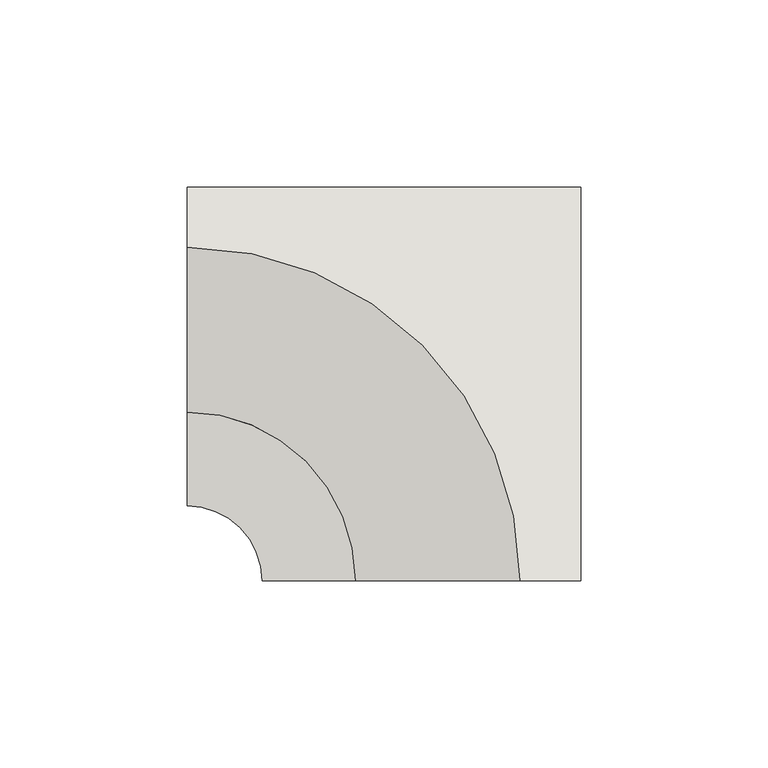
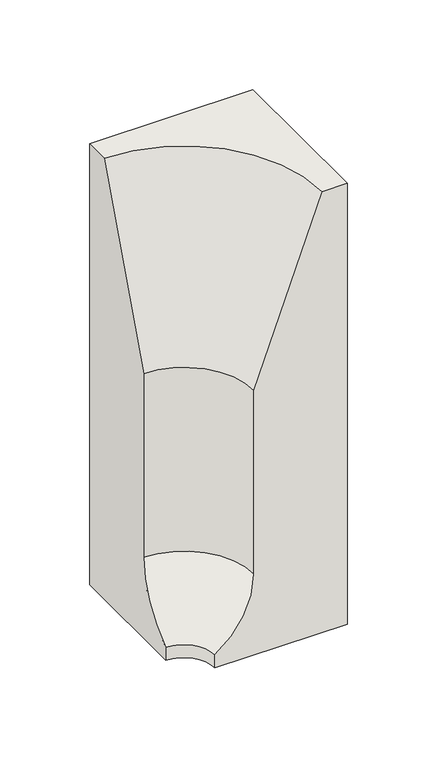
"""IFC4 building model written with IfcOpenShell, lengths in millimetres: wall geometry, GM_PC_UN_ACO kerb PB inside corner_ACO : PB H300 plain."""

from ifc_helpers import new_model, si_unit, frame, origin, place, context, project, spatial, polyline, circle_curve, source, transform, mapped, element, save
from ifc_brep_helpers import plane_surface, revolved_surface, spline_curve, advanced_brep


def wall_ba41f0f9(model_context):
    return source(origin(), model_context, "Body", "AdvancedBrep", [
        advanced_brep(
        [(-105.0, -85.0, 8.9329844), (-105.0, -60.02016, 54.9904169), (-105.0, -60.02016, 180.0038512), (-105.0, -16.0766274, 300.0008401), (-105.0, 0.0, 300.0008401), (-105.0, 0.0, 0.0), (-105.0, -85.0, -0.0124899), (-85.0, -105.0, 8.9329844), (-85.0, -105.0, -0.0124899), (0.0, -105.0, -0.0124899), (0.0, -105.0, 300.0), (-16.0766274, -105.0, 300.0008401), (-60.02016, -105.0, 180.0038512), (-60.02016, -105.0, 54.9904169), (0.0, 0.0, -0.0124899), (0.0, 0.0, 300.0008401)],
        [
            (0, 1, spline_curve(3, [(-105.0, -85.0, 8.9329844), (-105.0, -69.4194957, 19.0724445), (-105.0, -60.0210198, 36.401179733), (-105.0, -60.02016, 54.9904169)], [4, 4], [0.0, 1.0])),
            (1, 2),
            (2, 3),
            (3, 4),
            (4, 5),
            (5, 6),
            (6, 0),
            (7, 8),
            (8, 9),
            (9, 10),
            (10, 11),
            (11, 12),
            (12, 13),
            (13, 7, spline_curve(3, [(-60.02016, -105.0, 54.9904169), (-60.0210198, -105.0, 36.401179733), (-69.4194957, -105.0, 19.0724445), (-85.0, -105.0, 8.9329844)], [4, 4], [0.0, 1.0])),
            (0, 7, circle_curve(frame((-105.0, -105.0, 8.9329844), z_axis=(0.0, 0.0, -1.0), x_axis=(0.0, 1.0, 0.0)), 20.0)),
            (13, 1, circle_curve(frame((-105.0, -105.0, 54.9904169), z_axis=(0.0, 0.0, 1.0), x_axis=(0.0, 1.0, 0.0)), 44.97984)),
            (6, 8, circle_curve(frame((-105.0, -105.0, -0.0124899), z_axis=(0.0, 0.0, -1.0), x_axis=(0.0, 1.0, 0.0)), 20.0)),
            (5, 14),
            (14, 9),
            (3, 11, circle_curve(frame((-105.0, -105.0, 300.0008401), z_axis=(0.0, 0.0, -1.0), x_axis=(0.0, 1.0, 0.0)), 88.9233726)),
            (10, 15),
            (15, 4),
            (12, 2, circle_curve(frame((-105.0, -105.0, 180.0038512), z_axis=(0.0, 0.0, 1.0), x_axis=(0.0, 1.0, 0.0)), 44.97984)),
            (15, 14),
        ],
        [
            plane_surface(frame((-105.0, 0.0, 0.0), z_axis=(-1.0, 0.0, 0.0), x_axis=(0.0, 0.0, 1.0))),
            plane_surface(frame((0.0, -105.0, 0.0), z_axis=(0.0, -1.0, 0.0), x_axis=(0.0, 0.0, 1.0))),
            revolved_surface(spline_curve(3, [(-105.0, -85.0, 8.9329844), (-105.0, -69.4194957, 19.0724445), (-105.0, -60.0210198, 36.401179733), (-105.0, -60.02016, 54.9904169)], [4, 4], [0.0, 1.0]), (-105.0, -105.0, 0.0), (0.0, 0.0, -1.0)),
            revolved_surface(polyline([(-105.0, -85.0, -0.0124899), (-105.0, -85.0, 8.9329844)]), (-105.0, -105.0, 0.0), (0.0, 0.0, -1.0)),
            plane_surface(frame((-105.0, -105.0, -0.0124899), z_axis=(0.0, 0.0, -1.0), x_axis=(0.0, 1.0, 0.0))),
            plane_surface(frame((-105.0, -105.0, 300.0008401), z_axis=(0.0, 0.0, 1.0), x_axis=(0.0, 1.0, 0.0))),
            revolved_surface(polyline([(-105.0, -60.02016, 54.9904169), (-105.0, -60.02016, 180.0038512)]), (-105.0, -105.0, 0.0), (0.0, 0.0, -1.0)),
            revolved_surface(polyline([(-105.0, -60.02016, 180.0038512), (-105.0, -16.0766274, 300.0008401)]), (-105.0, -105.0, 0.0), (0.0, 0.0, -1.0)),
            plane_surface(frame((0.0, 0.0, 300.0), z_axis=(0.0, 1.0, 0.0), x_axis=(0.0, 0.0, -1.0))),
            plane_surface(frame((0.0, -105.0, 300.0), z_axis=(1.0, 0.0, 0.0), x_axis=(0.0, 0.0, -1.0))),
        ],
        [
            (0, [[1, 2, 3, 4, 5, 6, 7]]),
            (1, [[8, 9, 10, 11, 12, 13, 14]]),
            (2, [[-1, 15, -14, 16]]),
            (3, [[-7, 17, -8, -15]]),
            (4, [[-6, 18, 19, -9, -17]]),
            (5, [[-4, 20, -11, 21, 22]]),
            (6, [[-2, -16, -13, 23]]),
            (7, [[-3, -23, -12, -20]]),
            (8, [[-22, 24, -18, -5]]),
            (9, [[-21, -10, -19, -24]]),
        ],
    ),
    ])


if __name__ == "__main__":
    model = new_model("IFC4")
    model_context = context("Model", 3, world=origin())
    ifc_project = project(units=[si_unit("LENGTHUNIT", "METRE", prefix="MILLI")], contexts=[model_context])
    site = spatial("IfcSite", under=ifc_project)
    building = spatial("IfcBuilding", under=site)
    placement = place(None, origin())
    wall_shape = wall_ba41f0f9(model_context)
    element("IfcWall", 1, ObjectType="GM_PC_UN_ACO kerb PB inside corner_ACO : PB H300 plain", at=placement, inside=building, context=model_context, shape_type="MappedRepresentation", body=[
        mapped(wall_shape, transform((0.0, 0.0, 0.0), x_axis=(1.0, 0.0, 0.0), y_axis=(0.0, 1.0, 0.0), z_axis=(0.0, 0.0, 1.0))),
    ])
    save(model, "model.ifc")
